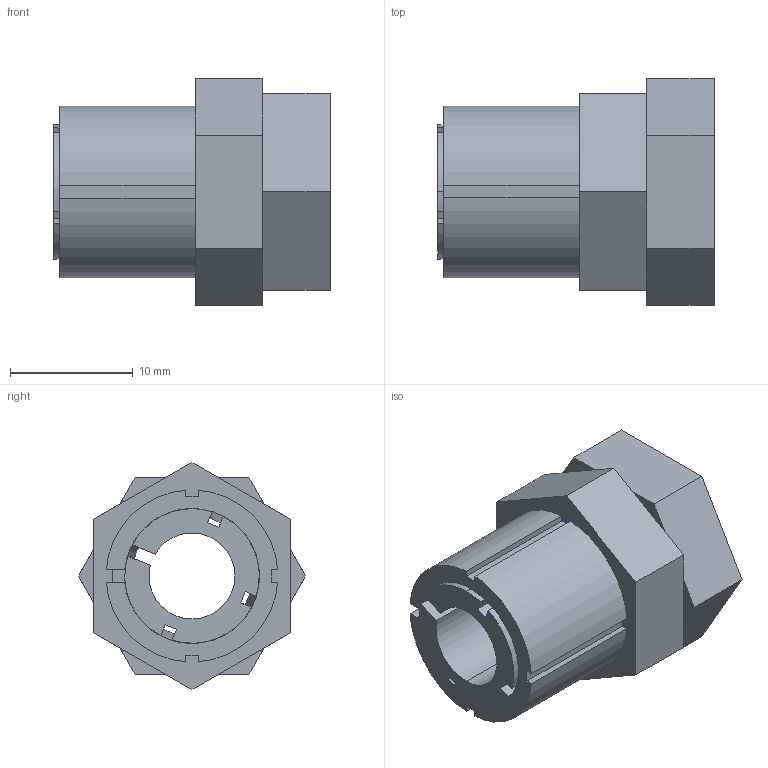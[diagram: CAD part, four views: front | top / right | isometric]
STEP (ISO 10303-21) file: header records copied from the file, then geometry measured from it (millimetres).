
FILE_DESCRIPTION (( 'STEP AP203' ), '1' );
FILE_NAME ('KBS 59 - 7 x 14.STEP', '2015-07-07T21:10:50', ( '' ), ( '' ), 'SwSTEP 2.0', 'SolidWorks 2010', '' );
FILE_SCHEMA (( 'CONFIG_CONTROL_DESIGN' ));
Length unit declared in the file: millimetre
Products named in the file (1): KBS 59 - 7 x 14
Bounding box: 22.5 x 18.48 x 18.48 mm (x, y, z)
Volume: 3067.1 mm3; surface area: 3992.2 mm2
Topology: 3 solids, 3 shells, 78 faces, 204 edges, 132 vertices
Faces by surface type: plane 56, cylinder 14, cone 8
Entity records: 2493 total; most frequent: CARTESIAN_POINT 475, ORIENTED_EDGE 408, DIRECTION 396, EDGE_CURVE 204, LINE 150, VECTOR 150, VERTEX_POINT 132, AXIS2_PLACEMENT_3D 123
